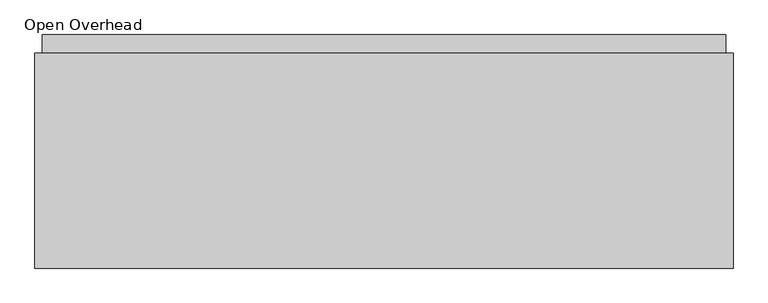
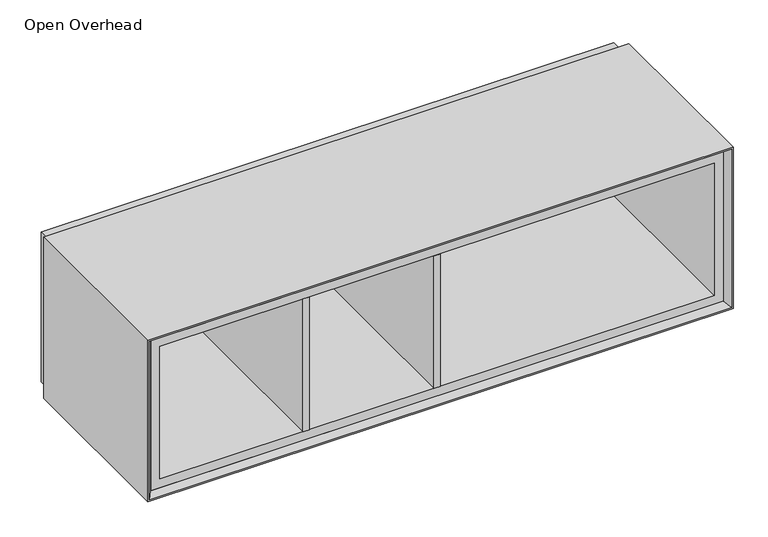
"""IFC4 building model written with IfcOpenShell, lengths in millimetres: furniture geometry."""

from ifc_helpers import new_model, si_unit, frame, origin, place, context, project, spatial, polyline, outline, extrude, faceted_brep, source, transform, mapped, element, save


def open_overhead_a36c8625(model_context):
    return source(origin(), model_context, "Body", "SolidModel", [
        extrude(outline(polyline([(615.95, 376.2375), (615.95, 12.7), (603.25, 12.7), (603.25, 376.2375), (615.95, 376.2375)])), frame((0.0, 0.0, 1555.75), z_axis=(0.0, 0.0, 1.0), x_axis=(1.0, 0.0, 0.0)), (0.0, 0.0, 1.0), 292.1),
        extrude(outline(polyline([(342.9, 376.2375), (342.9, 12.7), (330.2, 12.7), (330.2, 376.2375), (342.9, 376.2375)])), frame((0.0, 0.0, 1555.75), z_axis=(0.0, 0.0, 1.0), x_axis=(1.0, 0.0, 0.0)), (0.0, 0.0, 1.0), 292.1),
        extrude(outline(polyline([(1206.5, 376.2375), (12.7, 376.2375), (12.7, 407.9875), (1206.5, 407.9875), (1206.5, 376.2375)])), frame((0.0, 0.0, 1536.7), z_axis=(0.0, 0.0, 1.0), x_axis=(1.0, 0.0, 0.0)), (0.0, 0.0, 1.0), 330.2),
        extrude(outline(polyline([(1866.9, 1206.5), (1866.9, 12.7), (1536.7, 12.7), (1536.7, 1206.5), (1866.9, 1206.5)]), holes=[polyline([(1847.85, 31.75), (1847.85, 1187.45), (1555.75, 1187.45), (1555.75, 31.75), (1847.85, 31.75)])]), frame((0.0, 12.7, 0.0), z_axis=(0.0, 1.0, 0.0), x_axis=(0.0, 0.0, 1.0)), (0.0, 0.0, 1.0), 363.5375),
        faceted_brep([(1206.5, 12.7, 1866.9), (1206.5, 376.2375, 1866.9), (1206.5, 376.2375, 1536.7), (1206.5, 12.7, 1536.7), (1216.025, 0.0, 1876.425), (1216.025, 0.0, 1527.175), (1219.2, 376.2375, 1879.6), (1219.2, 0.0, 1879.6), (1219.2, 0.0, 1524.0), (1219.2, 376.2375, 1524.0), (12.7, 376.2375, 1536.7), (12.7, 12.7, 1536.7), (3.175, 0.0, 1527.175), (0.0, 0.0, 1524.0), (0.0, 376.2375, 1524.0), (12.7, 376.2375, 1866.9), (12.7, 12.7, 1866.9), (3.175, 0.0, 1876.425), (0.0, 0.0, 1879.6), (0.0, 376.2375, 1879.6)], [[[0, 1, 2, 3]], [[4, 0, 3, 5]], [[6, 7, 8, 9]], [[3, 2, 10, 11]], [[5, 3, 11, 12]], [[9, 8, 13, 14]], [[11, 10, 15, 16]], [[12, 11, 16, 17]], [[14, 13, 18, 19]], [[9, 14, 19, 6], [1, 15, 10, 2]], [[16, 15, 1, 0]], [[17, 16, 0, 4]], [[7, 18, 13, 8], [5, 12, 17, 4]], [[19, 18, 7, 6]]]),
    ])


if __name__ == "__main__":
    model = new_model("IFC4")
    model_context = context("Model", 3, world=origin())
    ifc_project = project(units=[si_unit("LENGTHUNIT", "METRE", prefix="MILLI")], contexts=[model_context])
    site = spatial("IfcSite", under=ifc_project)
    building = spatial("IfcBuilding", under=site)
    placement = place(None, origin())
    open_overhead_shape = open_overhead_a36c8625(model_context)
    element("IfcFurniture", 1, ObjectType="Open Overhead : 1 1/4\" Backpanel - 48\" W", at=placement, inside=building, context=model_context, shape_type="MappedRepresentation", body=[
        mapped(open_overhead_shape, transform((0.0, 0.0, 0.0), x_axis=(1.0, 0.0, 0.0), y_axis=(0.0, 1.0, 0.0), z_axis=(0.0, 0.0, 1.0))),
    ])
    save(model, "model.ifc")
